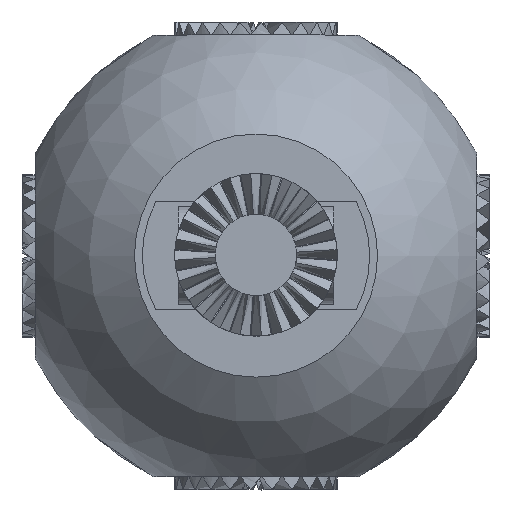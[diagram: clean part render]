
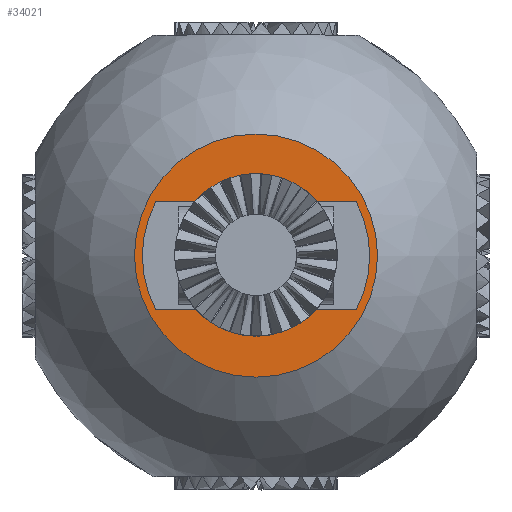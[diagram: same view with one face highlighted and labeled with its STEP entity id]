
A CAD part, top view. The second image highlights one B-rep face of the part: STEP entity #34021.
In plain terms, the highlighted planar face has unit normal (0, 0, 1).
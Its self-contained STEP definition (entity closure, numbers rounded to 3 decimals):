
#83 = SPHERICAL_SURFACE('',#84,15.);
#84 = AXIS2_PLACEMENT_3D('',#85,#86,#87);
#85 = CARTESIAN_POINT('',(0.,0.,0.));
#86 = DIRECTION('',(0.,0.,1.));
#87 = DIRECTION('',(1.,0.,0.));
#194 = VERTEX_POINT('',#195);
#195 = CARTESIAN_POINT('',(7.483,0.,13.));
#217 = EDGE_CURVE('',#194,#194,#218,.T.);
#218 = SURFACE_CURVE('',#219,(#224,#231),.PCURVE_S1.);
#219 = CIRCLE('',#220,7.483);
#220 = AXIS2_PLACEMENT_3D('',#221,#222,#223);
#221 = CARTESIAN_POINT('',(0.,0.,13.));
#222 = DIRECTION('',(0.,0.,1.));
#223 = DIRECTION('',(1.,0.,0.));
#224 = PCURVE('',#83,#225);
#225 = DEFINITIONAL_REPRESENTATION('',(#226),#230);
#226 = LINE('',#227,#228);
#227 = CARTESIAN_POINT('',(0.,1.048));
#228 = VECTOR('',#229,1.);
#229 = DIRECTION('',(1.,0.));
#230 = ( GEOMETRIC_REPRESENTATION_CONTEXT(2) 
PARAMETRIC_REPRESENTATION_CONTEXT() REPRESENTATION_CONTEXT('2D SPACE',''
  ) );
#231 = PCURVE('',#232,#237);
#232 = PLANE('',#233);
#233 = AXIS2_PLACEMENT_3D('',#234,#235,#236);
#234 = CARTESIAN_POINT('',(-30.,-30.,13.));
#235 = DIRECTION('',(0.,0.,1.));
#236 = DIRECTION('',(1.,0.,0.));
#237 = DEFINITIONAL_REPRESENTATION('',(#238),#242);
#238 = CIRCLE('',#239,7.483);
#239 = AXIS2_PLACEMENT_2D('',#240,#241);
#240 = CARTESIAN_POINT('',(30.,30.));
#241 = DIRECTION('',(1.,0.));
#242 = ( GEOMETRIC_REPRESENTATION_CONTEXT(2) 
PARAMETRIC_REPRESENTATION_CONTEXT() REPRESENTATION_CONTEXT('2D SPACE',''
  ) );
#33803 = CYLINDRICAL_SURFACE('',#33804,2.5);
#33804 = AXIS2_PLACEMENT_3D('',#33805,#33806,#33807);
#33805 = CARTESIAN_POINT('',(0.,0.,13.));
#33806 = DIRECTION('',(-0.,-0.,-1.));
#33807 = DIRECTION('',(1.,0.,0.));
#33822 = VERTEX_POINT('',#33823);
#33823 = CARTESIAN_POINT('',(2.5,0.,13.));
#33846 = EDGE_CURVE('',#33822,#33822,#33847,.T.);
#33847 = SURFACE_CURVE('',#33848,(#33853,#33860),.PCURVE_S1.);
#33848 = CIRCLE('',#33849,2.5);
#33849 = AXIS2_PLACEMENT_3D('',#33850,#33851,#33852);
#33850 = CARTESIAN_POINT('',(0.,0.,13.));
#33851 = DIRECTION('',(0.,0.,1.));
#33852 = DIRECTION('',(1.,0.,0.));
#33853 = PCURVE('',#33803,#33854);
#33854 = DEFINITIONAL_REPRESENTATION('',(#33855),#33859);
#33855 = LINE('',#33856,#33857);
#33856 = CARTESIAN_POINT('',(-0.,0.));
#33857 = VECTOR('',#33858,1.);
#33858 = DIRECTION('',(-1.,0.));
#33859 = ( GEOMETRIC_REPRESENTATION_CONTEXT(2) 
PARAMETRIC_REPRESENTATION_CONTEXT() REPRESENTATION_CONTEXT('2D SPACE',''
  ) );
#33860 = PCURVE('',#232,#33861);
#33861 = DEFINITIONAL_REPRESENTATION('',(#33862),#33866);
#33862 = CIRCLE('',#33863,2.5);
#33863 = AXIS2_PLACEMENT_2D('',#33864,#33865);
#33864 = CARTESIAN_POINT('',(30.,30.));
#33865 = DIRECTION('',(1.,0.));
#33866 = ( GEOMETRIC_REPRESENTATION_CONTEXT(2) 
PARAMETRIC_REPRESENTATION_CONTEXT() REPRESENTATION_CONTEXT('2D SPACE',''
  ) );
#34021 = ADVANCED_FACE('',(#34022,#34025),#232,.T.);
#34022 = FACE_BOUND('',#34023,.T.);
#34023 = EDGE_LOOP('',(#34024));
#34024 = ORIENTED_EDGE('',*,*,#217,.T.);
#34025 = FACE_BOUND('',#34026,.T.);
#34026 = EDGE_LOOP('',(#34027));
#34027 = ORIENTED_EDGE('',*,*,#33846,.F.);
